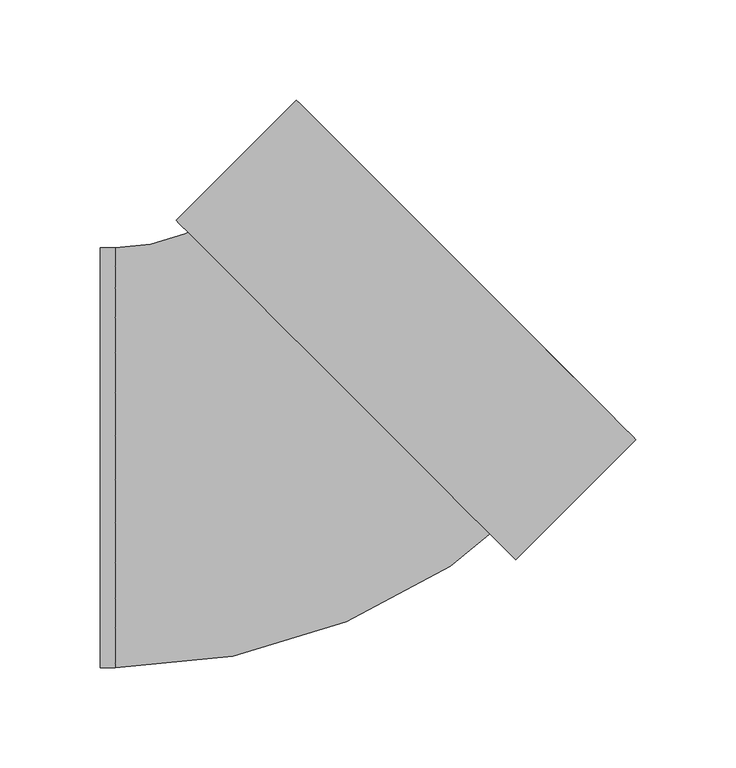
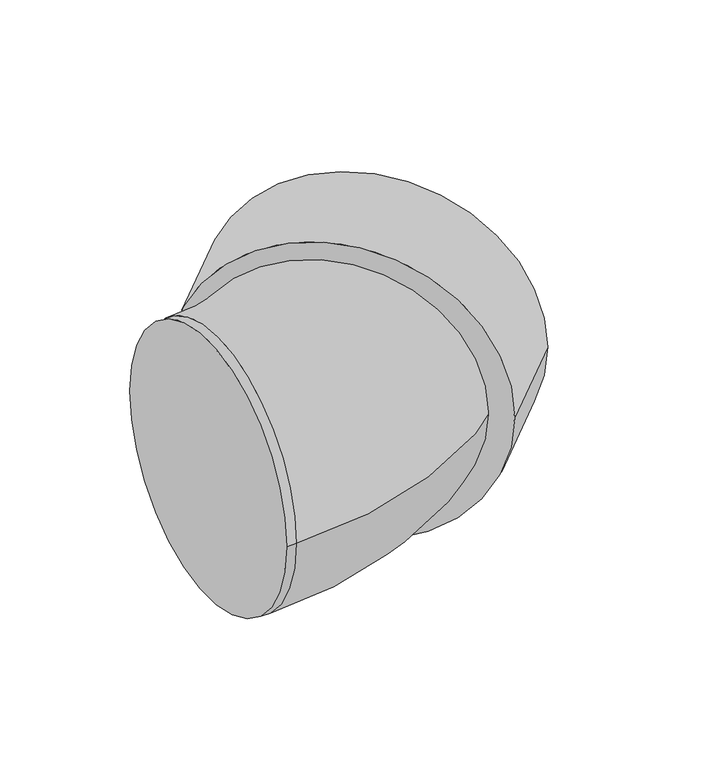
"""IFC4 building model written with IfcOpenShell, lengths in millimetres: duct fitting geometry, NLRS_57_DUF_UN_bend EPP_M&G : ø125 - ø180."""

from ifc_helpers import new_model, si_unit, point, frame, origin, place, context, project, spatial, polyline, circle_curve, ellipse_curve, trimmed, source, transform, mapped, element, save
from ifc_brep_helpers import plane_surface, cylinder_surface, revolved_surface, advanced_brep


def duct_fitting_af19edac(model_context):
    return source(origin(), model_context, "Body", "AdvancedBrep", [
        advanced_brep(
        [(-89.0, -105.0, 0.0), (-89.0, 105.0, 0.0), (-81.5, -105.0, 0.0), (-81.5, 105.0, 0.0), (-16.6170094, 131.8754147, 0.0), (131.8754147, -16.6170094, 0.0), (140.0071427, -8.4852814, 0.0), (-8.4852814, 140.0071427, 0.0)],
        [
            (0, 1, circle_curve(frame((-89.0, 0.0, 0.0), z_axis=(-1.0, 0.0, 0.0), x_axis=(0.0, 1.0, 0.0)), 105.0)),
            (1, 0, circle_curve(frame((-89.0, 0.0, 0.0), z_axis=(-1.0, 0.0, 0.0), x_axis=(0.0, 1.0, 0.0)), 105.0)),
            (0, 2),
            (2, 3, circle_curve(frame((-81.5, 0.0, 0.0), z_axis=(-1.0, 0.0, 0.0), x_axis=(0.0, 1.0, 0.0)), 105.0)),
            (3, 1),
            (3, 2, circle_curve(frame((-81.5, 0.0, 0.0), z_axis=(-1.0, 0.0, 0.0), x_axis=(0.0, 1.0, 0.0)), 105.0)),
            (4, 3, circle_curve(frame((-81.5, 196.7584053, 0.0), z_axis=(0.0, 0.0, -1.0), x_axis=(0.0, -1.0, 0.0)), 91.7584053)),
            (2, 5, circle_curve(frame((-81.5, 196.7584053, 0.0), z_axis=(0.0, 0.0, 1.0), x_axis=(0.0, -1.0, 0.0)), 301.7584053)),
            (5, 4, circle_curve(frame((57.6292027, 57.6292027, 0.0), z_axis=(-0.707106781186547, -0.707106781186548, 0.0), x_axis=(-0.707106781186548, 0.707106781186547, 0.0)), 105.0)),
            (4, 5, circle_curve(frame((57.6292027, 57.6292027, 0.0), z_axis=(-0.7071067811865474, -0.7071067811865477, 0.0), x_axis=(-0.7071067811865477, 0.7071067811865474, 0.0)), 105.0)),
            (6, 7, circle_curve(frame((65.7609307, 65.7609307, 0.0), z_axis=(0.707106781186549, 0.707106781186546, 0.0), x_axis=(-0.707106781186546, 0.707106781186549, 0.0)), 105.0)),
            (7, 6, circle_curve(frame((65.7609307, 65.7609307, 0.0), z_axis=(0.707106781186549, 0.707106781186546, 0.0), x_axis=(-0.707106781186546, 0.707106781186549, 0.0)), 105.0)),
            (5, 6),
            (7, 4),
        ],
        [
            plane_surface(frame((-89.0, 0.0, 0.0), z_axis=(-1.0, 0.0, 0.0), x_axis=(0.0, 0.0, 1.0))),
            cylinder_surface(frame((-89.0, 0.0, 0.0), z_axis=(-1.0, 0.0, 0.0), x_axis=(0.0, 1.0, 0.0)), 105.0),
            revolved_surface(trimmed(ellipse_curve(frame((-81.5, 0.0, 0.0), z_axis=(-1.0, 0.0, 0.0), x_axis=(0.0, 1.0, 0.0)), 105.0, 105.0), [point((-81.5, -105.0, 0.0))], [point((-81.5, 105.0, 0.0))], True, "CARTESIAN"), (-81.5, 196.7584053, 0.0), (0.0, 0.0, 1.0)),
            revolved_surface(trimmed(ellipse_curve(frame((-81.5, 0.0, 0.0), z_axis=(-1.0, 0.0, 0.0), x_axis=(0.0, 1.0, 0.0)), 105.0, 105.0), [point((-81.5, 105.0, 0.0))], [point((-81.5, -105.0, 0.0))], True, "CARTESIAN"), (-81.5, 196.7584053, 0.0), (0.0, 0.0, 1.0)),
            plane_surface(frame((65.7609307, 65.7609307, 0.0), z_axis=(0.707106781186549, 0.707106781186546, 0.0), x_axis=(0.0, 0.0, 1.0))),
            cylinder_surface(frame((57.6292027, 57.6292027, 0.0), z_axis=(-0.707106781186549, -0.707106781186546, 0.0), x_axis=(-0.707106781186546, 0.707106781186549, 0.0)), 105.0),
        ],
        [
            (0, [[1, 2]]),
            (1, [[-1, 3, 4, 5]]),
            (1, [[-2, -5, 6, -3]]),
            (2, [[7, -4, 8, 9]]),
            (3, [[-8, -6, -7, 10]]),
            (4, [[11, 12]]),
            (5, [[-9, 13, -12, 14]]),
            (5, [[-10, -14, -11, -13]]),
        ],
    ),
        advanced_brep(
        [(118.7939392, -50.9116882, 0.0), (-50.9116882, 118.7939392, 0.0), (178.8980156, 9.1923882, 0.0), (9.1923882, 178.8980156, 0.0), (168.2914139, 19.7989899, 0.0), (19.7989899, 168.2914139, 0.0), (140.0071427, -8.4852814, 0.0), (-8.4852814, 140.0071427, 0.0)],
        [
            (0, 1, circle_curve(frame((33.9411255, 33.9411255, 0.0), z_axis=(-0.707106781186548, -0.707106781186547, 0.0), x_axis=(-0.707106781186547, 0.707106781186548, 0.0)), 120.0)),
            (1, 0, circle_curve(frame((33.9411255, 33.9411255, 0.0), z_axis=(-0.707106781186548, -0.707106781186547, 0.0), x_axis=(-0.707106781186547, 0.707106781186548, 0.0)), 120.0)),
            (2, 3, circle_curve(frame((94.0452019, 94.0452019, 0.0), z_axis=(0.707106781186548, 0.707106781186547, 0.0), x_axis=(-0.707106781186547, 0.707106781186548, 0.0)), 120.0)),
            (3, 2, circle_curve(frame((94.0452019, 94.0452019, 0.0), z_axis=(0.707106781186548, 0.707106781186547, 0.0), x_axis=(-0.707106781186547, 0.707106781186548, 0.0)), 120.0)),
            (4, 5, circle_curve(frame((94.0452019, 94.0452019, 0.0), z_axis=(-0.7071067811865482, -0.7071067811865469, 0.0), x_axis=(-0.7071067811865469, 0.7071067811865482, 0.0)), 105.0)),
            (5, 4, circle_curve(frame((94.0452019, 94.0452019, 0.0), z_axis=(-0.7071067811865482, -0.7071067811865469, 0.0), x_axis=(-0.7071067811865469, 0.7071067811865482, 0.0)), 105.0)),
            (0, 2),
            (3, 1),
            (6, 7, circle_curve(frame((65.7609307, 65.7609307, 0.0), z_axis=(0.7071067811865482, 0.7071067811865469, 0.0), x_axis=(-0.7071067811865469, 0.7071067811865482, 0.0)), 105.0)),
            (7, 6, circle_curve(frame((65.7609307, 65.7609307, 0.0), z_axis=(0.7071067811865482, 0.7071067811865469, 0.0), x_axis=(-0.7071067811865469, 0.7071067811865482, 0.0)), 105.0)),
            (7, 5),
            (4, 6),
        ],
        [
            plane_surface(frame((33.9411255, 33.9411255, 0.0), z_axis=(-0.707106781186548, -0.707106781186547, 0.0), x_axis=(0.0, 0.0, 1.0))),
            plane_surface(frame((94.0452019, 94.0452019, 0.0), z_axis=(0.707106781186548, 0.707106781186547, 0.0), x_axis=(0.0, 0.0, 1.0))),
            cylinder_surface(frame((33.9411255, 33.9411255, 0.0), z_axis=(-0.707106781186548, -0.707106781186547, 0.0), x_axis=(-0.707106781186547, 0.707106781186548, 0.0)), 120.0),
            plane_surface(frame((65.7609307, 65.7609307, 0.0), z_axis=(0.7071067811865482, 0.7071067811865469, 0.0), x_axis=(0.0, 0.0, 1.0))),
            revolved_surface(polyline([(-8.485281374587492, 140.0071426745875, 0.0), (19.798989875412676, 168.2914139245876, 0.0)]), (65.7609307, 65.7609307, 0.0), (-0.7071067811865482, -0.7071067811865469, 0.0)),
        ],
        [
            (0, [[1, 2]]),
            (1, [[3, 4], [5, 6]]),
            (2, [[-1, 7, -4, 8]]),
            (2, [[-2, -8, -3, -7]]),
            (3, [[9, 10]]),
            (4, [[-10, 11, -5, 12]]),
            (4, [[-9, -12, -6, -11]]),
        ],
    ),
    ])


if __name__ == "__main__":
    model = new_model("IFC4")
    model_context = context("Model", 3, world=origin())
    ifc_project = project(units=[si_unit("LENGTHUNIT", "METRE", prefix="MILLI")], contexts=[model_context])
    site = spatial("IfcSite", under=ifc_project)
    building = spatial("IfcBuilding", under=site)
    placement = place(None, origin())
    duct_fitting_shape = duct_fitting_af19edac(model_context)
    element("IfcDuctFitting", 1, ObjectType="NLRS_57_DUF_UN_bend EPP_M&G : ø125 - ø180", at=placement, inside=building, context=model_context, shape_type="MappedRepresentation", body=[
        mapped(duct_fitting_shape, transform((0.0, 0.0, 0.0), x_axis=(1.0, 0.0, 0.0), y_axis=(0.0, 1.0, 0.0), z_axis=(0.0, 0.0, 1.0))),
    ])
    save(model, "model.ifc")
